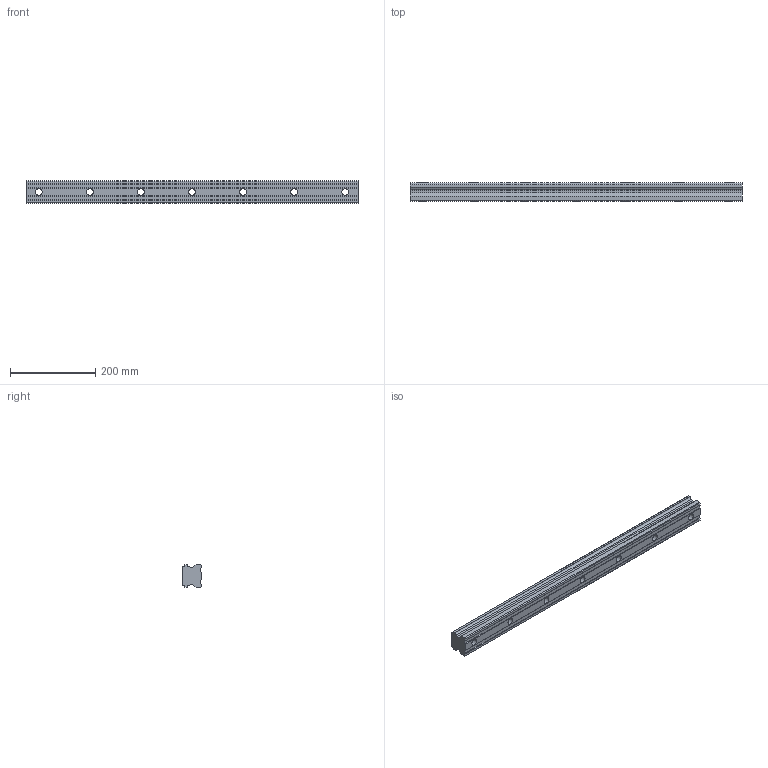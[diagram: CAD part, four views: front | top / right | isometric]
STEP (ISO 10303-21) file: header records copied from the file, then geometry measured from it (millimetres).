
FILE_DESCRIPTION(/* description */ ('STEP AP203'),/* implementation_level */ '2;1');
FILE_NAME(/* name */ 'HSR55-780L(GK) RAIL(30)',/* time_stamp */ '2024-05-21T04:46:14+02:00',/* author */ ('License CC BY-ND 4.0'),/* organization */ ('CADENAS'),/* preprocessor_version */ 'ST-DEVELOPER v19.3',/* originating_system */ 'PARTsolutions',/* authorisation */ ' ');
FILE_SCHEMA (('CONFIG_CONTROL_DESIGN'));
Length unit declared in the file: millimetre
Products named in the file (1): HSR55-780L(GK) RAIL(30)
Bounding box: 780 x 44 x 53 mm (x, y, z)
Volume: 1511372.9 mm3; surface area: 177148.8 mm2
Topology: 1 solids, 1 shells, 55 faces, 138 edges, 92 vertices
Faces by surface type: plane 37, cylinder 18
Full cylindrical faces by diameter (mm): 16 x7, 23 x7
Entity records: 1636 total; most frequent: DIRECTION 272, CARTESIAN_POINT 272, ORIENTED_EDGE 248, EDGE_CURVE 124, VERTEX_POINT 92, AXIS2_PLACEMENT_3D 92, EDGE_LOOP 90, FACE_BOUND 90
